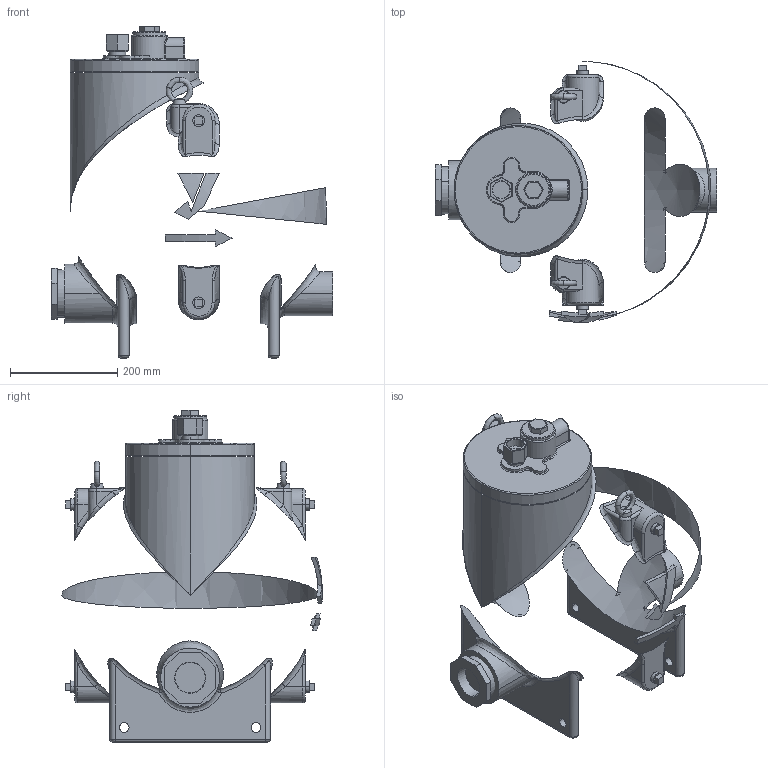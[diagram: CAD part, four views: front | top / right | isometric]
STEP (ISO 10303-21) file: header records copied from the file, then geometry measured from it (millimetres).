
FILE_DESCRIPTION( (''), '2;1');
FILE_NAME ('PC1027.9568.PF-7000 50A_17293.stp','2025-07-28T17:14:15',(''),(''),'spGate 19.8.4 (****-****-****-****)','','');
FILE_SCHEMA (('AUTOMOTIVE_DESIGN'));
Length unit declared in the file: millimetre
Products named in the file (5): Assembly; PF-7000 80A; アイボルト M12; Plug R 1／2; R3-R2 Bush
Assembly tree (8 placements, depth 2):
  Assembly
    PF-7000 80A
    アイボルト M12  x2
    Plug R 1／2  x4
    R3-R2 Bush
Bounding box: 525 x 487 x 619.5 mm (x, y, z)
Volume: 7884050.9 mm3; surface area: 804070.3 mm2
Topology: 18 solids, 18 shells, 378 faces, 842 edges, 517 vertices
Faces by surface type: plane 146, bspline 108, cylinder 101, sphere 23
Entity records: 38515 total; most frequent: CARTESIAN_POINT 25226, ORIENTED_EDGE 1486, DIRECTION 1435, COLOUR_RGB 1073, PRESENTATION_STYLE_ASSIGNMENT 1073, STYLED_ITEM 1073, EDGE_CURVE 743, DRAUGHTING_PRE_DEFINED_CURVE_FONT 743
